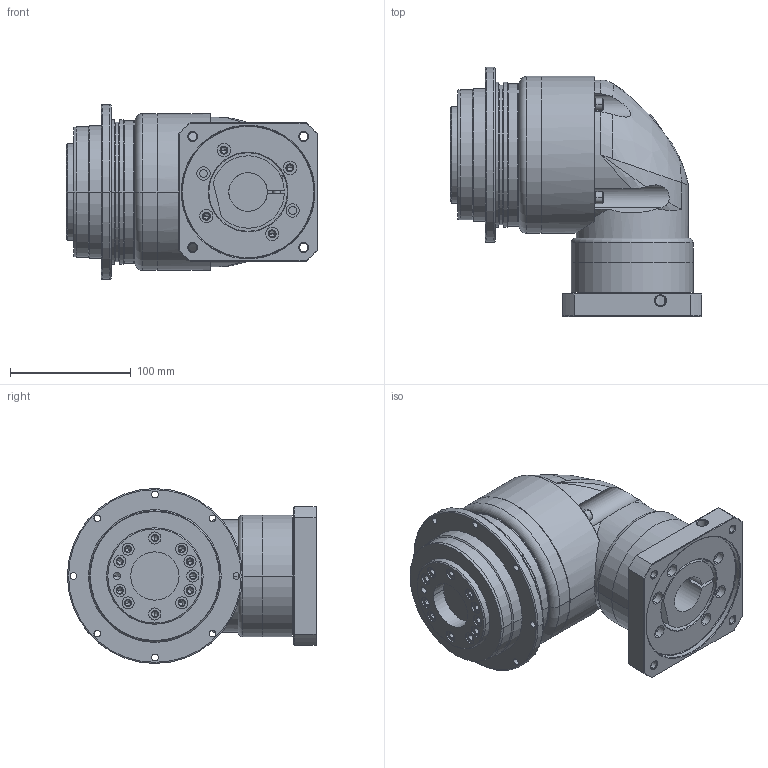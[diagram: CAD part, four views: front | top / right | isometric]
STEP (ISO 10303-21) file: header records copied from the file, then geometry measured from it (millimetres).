
FILE_DESCRIPTION((''),'2;1');
FILE_NAME('ADR1101-P0403401001_ASM','2008-09-01T',('d00080'),(''),'PRO/ENGINEER BY PARAMETRIC TECHNOLOGY CORPORATION, 2006170','PRO/ENGINEER BY PARAMETRIC TECHNOLOGY CORPORATION, 2006170','');
FILE_SCHEMA(('CONFIG_CONTROL_DESIGN'));
Length unit declared in the file: millimetre
Products named in the file (11): AD110-1; P1306400001; 220110503; ADR-PLATE-4_ASM; P1002400001; 233100004; 220100708; HOUSING-SET-4_ASM; P1305400001; P0403401001; ADR1101-P0403401001_ASM
Assembly tree (27 placements, depth 3):
  ADR1101-P0403401001_ASM
    AD110-1
    ADR-PLATE-4_ASM
      P1306400001
      220110503  x12
    HOUSING-SET-4_ASM
      P1002400001
      233100004  x4
      220100708  x4
    P1305400001
    P0403401001
Bounding box: 208 x 206.5 x 145 mm (x, y, z)
Volume: 2389088.1 mm3; surface area: 284597.9 mm2
Topology: 25 solids, 69 shells, 1312 faces, 3042 edges, 1852 vertices
Faces by surface type: cylinder 564, plane 395, cone 266, torus 69, bspline 18
Entity records: 26641 total; most frequent: CARTESIAN_POINT 6013, DIRECTION 4687, ORIENTED_EDGE 3824, AXIS2_PLACEMENT_3D 2000, EDGE_CURVE 2000, VERTEX_POINT 1296, CIRCLE 1102, EDGE_LOOP 1052
